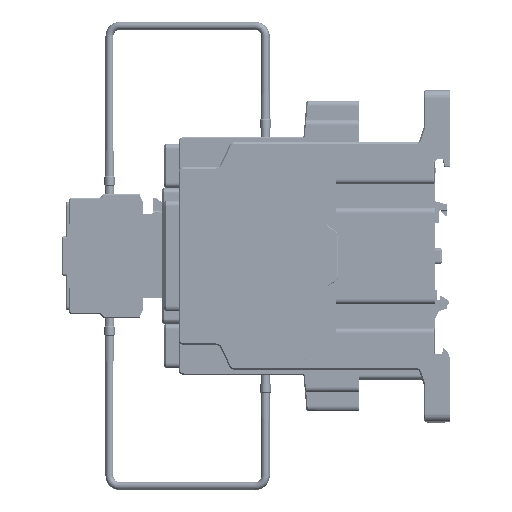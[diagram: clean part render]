
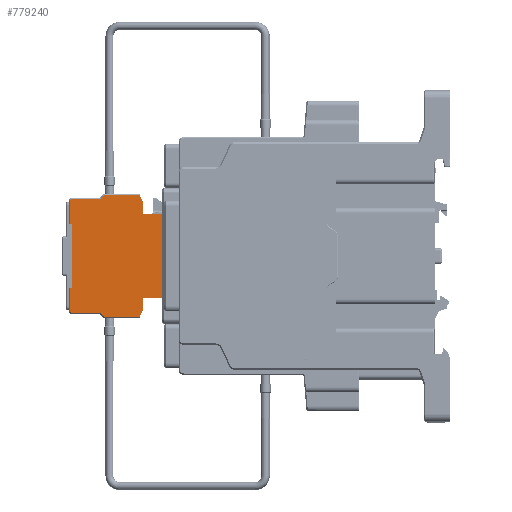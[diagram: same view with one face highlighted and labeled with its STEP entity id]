
A CAD part, left-side view. The second image highlights one B-rep face of the part: STEP entity #779240.
In plain terms, the highlighted planar face has unit normal (-1, 0, 0).
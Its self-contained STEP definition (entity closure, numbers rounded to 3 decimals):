
#731385=DIRECTION('',(0.,1.,0.));
#731386=VECTOR('',#731385,4.25);
#731387=CARTESIAN_POINT('',(-22.25,-20.25,10.9));
#731388=LINE('',#731387,#731386);
#739135=DIRECTION('',(0.,1.,0.));
#739136=VECTOR('',#739135,32.);
#739137=CARTESIAN_POINT('',(-22.25,-16.,17.9));
#739138=LINE('',#739137,#739136);
#745876=DIRECTION('',(0.,1.,0.));
#745877=VECTOR('',#745876,4.25);
#745878=CARTESIAN_POINT('',(-22.25,16.,10.9));
#745879=LINE('',#745878,#745877);
#745933=DIRECTION('',(0.,1.,0.));
#745934=VECTOR('',#745933,9.068);
#745935=CARTESIAN_POINT('',(-22.25,-21.25,-17.1));
#745936=LINE('',#745935,#745934);
#745940=DIRECTION('',(0.,0.135,0.991));
#745941=VECTOR('',#745940,0.606);
#745942=CARTESIAN_POINT('',(-22.25,-12.182,-17.1));
#745943=LINE('',#745942,#745941);
#745947=DIRECTION('',(0.,1.,0.));
#745948=VECTOR('',#745947,24.2);
#745949=CARTESIAN_POINT('',(-22.25,-12.1,-16.5));
#745950=LINE('',#745949,#745948);
#745954=DIRECTION('',(0.,0.135,-0.991));
#745955=VECTOR('',#745954,0.606);
#745956=CARTESIAN_POINT('',(-22.25,12.1,-16.5));
#745957=LINE('',#745956,#745955);
#745961=DIRECTION('',(0.,1.,0.));
#745962=VECTOR('',#745961,9.068);
#745963=CARTESIAN_POINT('',(-22.25,12.182,-17.1));
#745964=LINE('',#745963,#745962);
#745968=CARTESIAN_POINT('',(-22.25,21.25,-16.6));
#745969=DIRECTION('',(1.,0.,0.));
#745970=DIRECTION('',(0.,0.,-1.));
#745971=AXIS2_PLACEMENT_3D('',#745968,#745969,#745970);
#745976=DIRECTION('',(0.,0.,1.));
#745977=VECTOR('',#745976,10.679);
#745978=CARTESIAN_POINT('',(-22.25,21.75,-16.6));
#745979=LINE('',#745978,#745977);
#745983=CARTESIAN_POINT('',(-22.25,22.85,-5.921));
#745984=DIRECTION('',(-1.,0.,0.));
#745985=DIRECTION('',(0.,-1.,0.));
#745986=AXIS2_PLACEMENT_3D('',#745983,#745984,#745985);
#745991=DIRECTION('',(0.,0.832,0.555));
#745992=VECTOR('',#745991,0.679);
#745993=CARTESIAN_POINT('',(-22.25,22.24,
-5.006));
#745994=LINE('',#745993,#745992);
#745998=CARTESIAN_POINT('',(-22.25,22.25,-3.797));
#745999=DIRECTION('',(1.,0.,0.));
#746000=DIRECTION('',(0.,0.555,-0.832));
#746001=AXIS2_PLACEMENT_3D('',#745998,#745999,#746000);
#746006=DIRECTION('',(0.,0.,1.));
#746007=VECTOR('',#746006,13.412);
#746008=CARTESIAN_POINT('',(-22.25,23.25,-3.797));
#746009=LINE('',#746008,#746007);
#746013=DIRECTION('',(0.,0.919,-0.394));
#746014=VECTOR('',#746013,3.264);
#746015=CARTESIAN_POINT('',(-22.25,20.25,10.9));
#746016=LINE('',#746015,#746014);
#746020=DIRECTION('',(0.,0.,-1.));
#746021=VECTOR('',#746020,7.);
#746022=CARTESIAN_POINT('',(-22.25,16.,17.9));
#746023=LINE('',#746022,#746021);
#746027=DIRECTION('',(0.,0.,-1.));
#746028=VECTOR('',#746027,7.);
#746029=CARTESIAN_POINT('',(-22.25,-16.,17.9));
#746030=LINE('',#746029,#746028);
#746034=DIRECTION('',(0.,0.919,0.394));
#746035=VECTOR('',#746034,3.264);
#746036=CARTESIAN_POINT('',(-22.25,-23.25,9.614));
#746037=LINE('',#746036,#746035);
#746041=DIRECTION('',(0.,0.,-1.));
#746042=VECTOR('',#746041,13.412);
#746043=CARTESIAN_POINT('',(-22.25,-23.25,9.614));
#746044=LINE('',#746043,#746042);
#746048=CARTESIAN_POINT('',(-22.25,-22.25,-3.797));
#746049=DIRECTION('',(1.,0.,0.));
#746050=DIRECTION('',(0.,-1.,0.));
#746051=AXIS2_PLACEMENT_3D('',#746048,#746049,#746050);
#746056=DIRECTION('',(0.,0.832,-0.555));
#746057=VECTOR('',#746056,0.679);
#746058=CARTESIAN_POINT('',(-22.25,-22.805,-4.629));
#746059=LINE('',#746058,#746057);
#746063=CARTESIAN_POINT('',(-22.25,-22.85,-5.921));
#746064=DIRECTION('',(-1.,0.,0.));
#746065=DIRECTION('',(0.,0.555,0.832));
#746066=AXIS2_PLACEMENT_3D('',#746063,#746064,#746065);
#746071=DIRECTION('',(0.,0.,-1.));
#746072=VECTOR('',#746071,10.679);
#746073=CARTESIAN_POINT('',(-22.25,-21.75,
-5.921));
#746074=LINE('',#746073,#746072);
#746078=CARTESIAN_POINT('',(-22.25,-21.25,-16.6));
#746079=DIRECTION('',(1.,0.,0.));
#746080=DIRECTION('',(0.,-1.,0.));
#746081=AXIS2_PLACEMENT_3D('',#746078,#746079,#746080);
#761139=CARTESIAN_POINT('',(-22.25,16.,17.9));
#761141=VERTEX_POINT('',#761139);
#762468=CARTESIAN_POINT('',(-22.25,16.,10.9));
#762469=VERTEX_POINT('',#762468);
#762480=CARTESIAN_POINT('',(-22.25,-16.,17.9));
#762481=CARTESIAN_POINT('',(-22.25,-16.,10.9));
#762482=VERTEX_POINT('',#762480);
#762483=VERTEX_POINT('',#762481);
#762564=CARTESIAN_POINT('',(-22.25,-12.1,-16.5));
#762565=CARTESIAN_POINT('',(-22.25,12.1,-16.5));
#762566=VERTEX_POINT('',#762564);
#762567=VERTEX_POINT('',#762565);
#762597=CARTESIAN_POINT('',(-22.25,-20.25,10.9));
#762599=VERTEX_POINT('',#762597);
#762600=CARTESIAN_POINT('',(-22.25,20.25,10.9));
#762602=VERTEX_POINT('',#762600);
#763293=CARTESIAN_POINT('',(-22.25,-12.182,-17.1));
#763295=VERTEX_POINT('',#763293);
#763296=CARTESIAN_POINT('',(-22.25,-21.25,-17.1));
#763297=VERTEX_POINT('',#763296);
#763300=CARTESIAN_POINT('',(-22.25,12.182,-17.1));
#763302=VERTEX_POINT('',#763300);
#763306=CARTESIAN_POINT('',(-22.25,21.25,-17.1));
#763307=VERTEX_POINT('',#763306);
#763309=CARTESIAN_POINT('',(-22.25,23.25,9.614));
#763311=VERTEX_POINT('',#763309);
#763312=CARTESIAN_POINT('',(-22.25,23.25,-3.797));
#763313=VERTEX_POINT('',#763312);
#763318=CARTESIAN_POINT('',(-22.25,22.805,-4.629));
#763319=VERTEX_POINT('',#763318);
#763322=CARTESIAN_POINT('',(-22.25,22.24,
-5.006));
#763323=VERTEX_POINT('',#763322);
#763326=CARTESIAN_POINT('',(-22.25,21.75,-5.921));
#763327=VERTEX_POINT('',#763326);
#763330=CARTESIAN_POINT('',(-22.25,21.75,-16.6));
#763331=VERTEX_POINT('',#763330);
#763340=CARTESIAN_POINT('',(-22.25,-23.25,9.614));
#763341=VERTEX_POINT('',#763340);
#763350=CARTESIAN_POINT('',(-22.25,-23.25,-3.797));
#763351=VERTEX_POINT('',#763350);
#763354=CARTESIAN_POINT('',(-22.25,-22.805,-4.629));
#763355=VERTEX_POINT('',#763354);
#763358=CARTESIAN_POINT('',(-22.25,-22.24,
-5.006));
#763359=VERTEX_POINT('',#763358);
#763362=CARTESIAN_POINT('',(-22.25,-21.75,-5.921));
#763363=VERTEX_POINT('',#763362);
#763366=CARTESIAN_POINT('',(-22.25,-21.75,-16.6));
#763367=VERTEX_POINT('',#763366);
#779201=CARTESIAN_POINT('',(-22.25,-23.75,-18.6));
#779202=DIRECTION('',(-1.,0.,0.));
#779203=DIRECTION('',(0.,0.,1.));
#779204=AXIS2_PLACEMENT_3D('',#779201,#779202,#779203);
#779205=PLANE('',#779204);
#779206=ORIENTED_EDGE('',*,*,#772491,.T.);
#779207=ORIENTED_EDGE('',*,*,#772509,.T.);
#779209=ORIENTED_EDGE('',*,*,#779208,.T.);
#779210=ORIENTED_EDGE('',*,*,#772535,.T.);
#779211=ORIENTED_EDGE('',*,*,#772553,.T.);
#779212=ORIENTED_EDGE('',*,*,#772567,.T.);
#779214=ORIENTED_EDGE('',*,*,#779213,.T.);
#779216=ORIENTED_EDGE('',*,*,#779215,.T.);
#779218=ORIENTED_EDGE('',*,*,#779217,.T.);
#779220=ORIENTED_EDGE('',*,*,#779219,.T.);
#779222=ORIENTED_EDGE('',*,*,#779221,.T.);
#779224=ORIENTED_EDGE('',*,*,#779223,.F.);
#779225=ORIENTED_EDGE('',*,*,#779140,.F.);
#779226=ORIENTED_EDGE('',*,*,#770528,.F.);
#779227=ORIENTED_EDGE('',*,*,#773734,.F.);
#779228=ORIENTED_EDGE('',*,*,#773391,.T.);
#779229=ORIENTED_EDGE('',*,*,#767802,.F.);
#779230=ORIENTED_EDGE('',*,*,#772221,.F.);
#779231=ORIENTED_EDGE('',*,*,#772237,.T.);
#779232=ORIENTED_EDGE('',*,*,#772251,.T.);
#779234=ORIENTED_EDGE('',*,*,#779233,.T.);
#779235=ORIENTED_EDGE('',*,*,#772335,.T.);
#779236=ORIENTED_EDGE('',*,*,#772350,.T.);
#779237=ORIENTED_EDGE('',*,*,#772365,.T.);
#779238=EDGE_LOOP('',(#779206,#779207,#779209,#779210,#779211,#779212,#779214,
#779216,#779218,#779220,#779222,#779224,#779225,#779226,#779227,#779228,#779229,
#779230,#779231,#779232,#779234,#779235,#779236,#779237));
#779239=FACE_OUTER_BOUND('',#779238,.F.);
#779240=ADVANCED_FACE('',(#779239),#779205,.T.);
#745972=CIRCLE('',#745971,0.5);
#745987=CIRCLE('',#745986,1.1);
#746002=CIRCLE('',#746001,1.);
#746052=CIRCLE('',#746051,1.);
#746067=CIRCLE('',#746066,1.1);
#746082=CIRCLE('',#746081,0.5);
#767802=EDGE_CURVE('',#762599,#762483,#731388,.T.);
#770528=EDGE_CURVE('',#761141,#762469,#746023,.T.);
#772221=EDGE_CURVE('',#763341,#762599,#746037,.T.);
#772237=EDGE_CURVE('',#763341,#763351,#746044,.T.);
#772251=EDGE_CURVE('',#763351,#763355,#746052,.T.);
#772335=EDGE_CURVE('',#763359,#763363,#746067,.T.);
#772350=EDGE_CURVE('',#763363,#763367,#746074,.T.);
#772365=EDGE_CURVE('',#763367,#763297,#746082,.T.);
#772491=EDGE_CURVE('',#763297,#763295,#745936,.T.);
#772509=EDGE_CURVE('',#763295,#762566,#745943,.T.);
#772535=EDGE_CURVE('',#762567,#763302,#745957,.T.);
#772553=EDGE_CURVE('',#763302,#763307,#745964,.T.);
#772567=EDGE_CURVE('',#763307,#763331,#745972,.T.);
#773391=EDGE_CURVE('',#762482,#762483,#746030,.T.);
#773734=EDGE_CURVE('',#762482,#761141,#739138,.T.);
#779140=EDGE_CURVE('',#762469,#762602,#745879,.T.);
#779208=EDGE_CURVE('',#762566,#762567,#745950,.T.);
#779213=EDGE_CURVE('',#763331,#763327,#745979,.T.);
#779215=EDGE_CURVE('',#763327,#763323,#745987,.T.);
#779217=EDGE_CURVE('',#763323,#763319,#745994,.T.);
#779219=EDGE_CURVE('',#763319,#763313,#746002,.T.);
#779221=EDGE_CURVE('',#763313,#763311,#746009,.T.);
#779223=EDGE_CURVE('',#762602,#763311,#746016,.T.);
#779233=EDGE_CURVE('',#763355,#763359,#746059,.T.);
